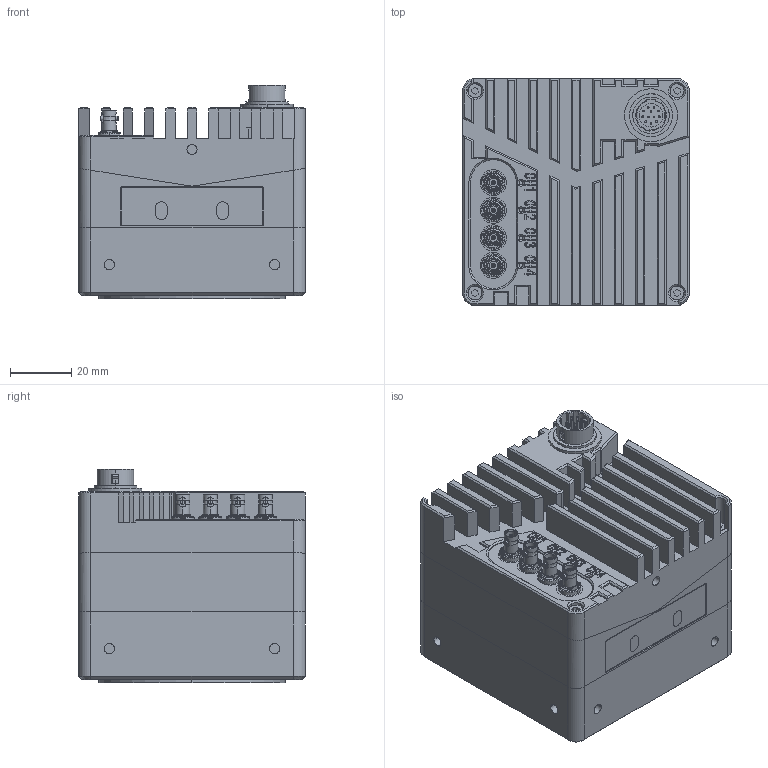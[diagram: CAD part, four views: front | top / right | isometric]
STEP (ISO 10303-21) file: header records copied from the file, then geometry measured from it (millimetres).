
FILE_DESCRIPTION (( 'STEP AP203' ), '1' );
FILE_NAME ('mars_hs_cxp_74_74_11.48_m58_user_s1.0.3.STEP', '2023-09-14T02:36:57', ( '' ), ( '' ), 'SwSTEP 2.0', 'SolidWorks 2016', '' );
FILE_SCHEMA (( 'CONFIG_CONTROL_DESIGN' ));
Products named in the file (1): mars_hs_cxp_74_74_11.48_m58_user_s1.0.3
Bounding box: 74 x 74 x 69.81 mm (x, y, z)
Volume: 236003.9 mm3; surface area: 92305.5 mm2
Topology: 53 solids, 70 shells, 2839 faces, 7260 edges, 4762 vertices
Faces by surface type: plane 1562, cylinder 858, bspline 285, cone 130, torus 4
Entity records: 144658 total; most frequent: CARTESIAN_POINT 77674, ORIENTED_EDGE 14512, DIRECTION 12700, EDGE_CURVE 7256, VERTEX_POINT 4758, LINE 4508, VECTOR 4508, AXIS2_PLACEMENT_3D 4096
